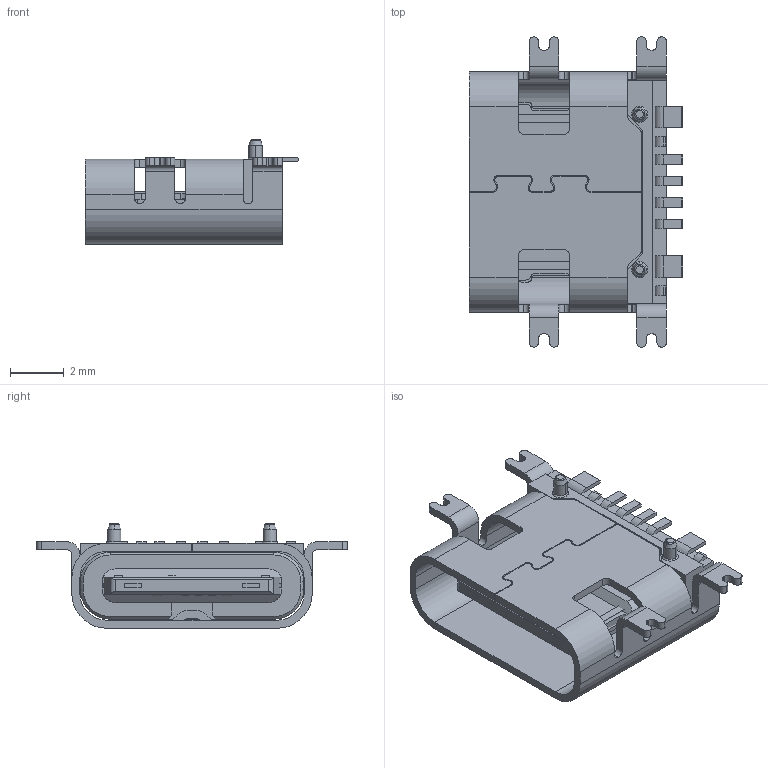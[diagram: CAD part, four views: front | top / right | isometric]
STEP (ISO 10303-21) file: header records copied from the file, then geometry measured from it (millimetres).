
FILE_DESCRIPTION (( 'STEP AP203' ), '1' );
FILE_NAME ('TYPE-C6PIN板上7.35全贴（带数据版本）.STEP', '2023-09-04T09:28:08', ( '' ), ( '' ), 'SwSTEP 2.0', 'SolidWorks 2021', '' );
FILE_SCHEMA (( 'CONFIG_CONTROL_DESIGN' ));
Length unit declared in the file: millimetre
Products named in the file (5): 6PIN板上端子带数据直款20230713; һģ0615; 6PIN钢片20220620; 7.35外壳板上全贴; TYPE-C6PIN板上7.35全贴（带数据版本）
Assembly tree (4 placements, depth 2):
  TYPE-C6PIN板上7.35全贴（带数据版本）
    6PIN钢片20220620
    6PIN板上端子带数据直款20230713
    7.35外壳板上全贴
    һģ0615
Bounding box: 7.92 x 11.54 x 3.88 mm (x, y, z)
Volume: 107.5 mm3; surface area: 589.4 mm2
Topology: 11 solids, 27 shells, 857 faces, 2389 edges, 1583 vertices
Faces by surface type: plane 549, cylinder 284, cone 12, bspline 8, torus 4
Entity records: 28375 total; most frequent: CARTESIAN_POINT 5501, ORIENTED_EDGE 4778, DIRECTION 4578, EDGE_CURVE 2389, VECTOR 1746, LINE 1746, VERTEX_POINT 1583, AXIS2_PLACEMENT_3D 1416
